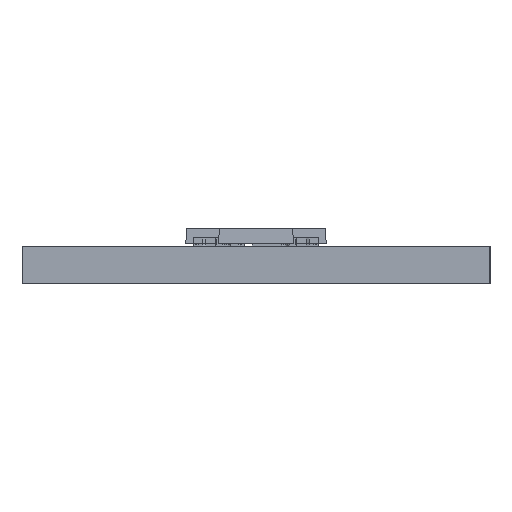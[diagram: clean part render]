
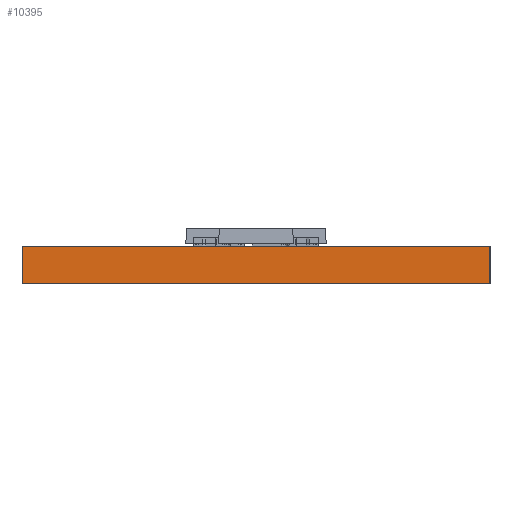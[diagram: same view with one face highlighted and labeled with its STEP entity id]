
A CAD part, left-side view. The second image highlights one B-rep face of the part: STEP entity #10395.
In plain terms, the highlighted planar face has unit normal (-1, 0, 0).
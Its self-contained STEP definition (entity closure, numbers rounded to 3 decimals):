
#1860=CARTESIAN_POINT('Vertex',(-17.,-10.,-1.6)) ;
#1863=CARTESIAN_POINT('Line Origine',(-17.,0.,-1.6)) ;
#1867=CARTESIAN_POINT('Vertex',(-17.,10.,-1.6)) ;
#9948=CARTESIAN_POINT('Vertex',(-17.,-10.,-0.004)) ;
#9951=CARTESIAN_POINT('Line Origine',(-17.,-10.,-0.802)) ;
#10321=CARTESIAN_POINT('Line Origine',(-17.,10.,-0.802)) ;
#10325=CARTESIAN_POINT('Vertex',(-17.,10.,-0.004)) ;
#10379=CARTESIAN_POINT('Axis2P3D Location',(-17.,-10.,0.)) ;
#10384=CARTESIAN_POINT('Line Origine',(-17.,0.,-0.004)) ;
#1865=VECTOR('Line Direction',#1864,1.) ;
#9953=VECTOR('Line Direction',#9952,1.) ;
#10323=VECTOR('Line Direction',#10322,1.) ;
#10386=VECTOR('Line Direction',#10385,1.) ;
#1864=DIRECTION('Vector Direction',(0.,1.,0.)) ;
#9952=DIRECTION('Vector Direction',(0.,0.,-1.)) ;
#10322=DIRECTION('Vector Direction',(0.,0.,-1.)) ;
#10380=DIRECTION('Axis2P3D Direction',(-1.,0.,0.)) ;
#10381=DIRECTION('Axis2P3D XDirection',(0.,1.,0.)) ;
#10385=DIRECTION('Vector Direction',(0.,-1.,0.)) ;
#10382=AXIS2_PLACEMENT_3D('Plane Axis2P3D',#10379,#10380,#10381) ;
#1866=LINE('Line',#1863,#1865) ;
#9954=LINE('Line',#9951,#9953) ;
#10324=LINE('Line',#10321,#10323) ;
#10387=LINE('Line',#10384,#10386) ;
#10383=PLANE('',#10382) ;
#1869=EDGE_CURVE('',#1861,#1868,#1866,.T.) ;
#9955=EDGE_CURVE('',#9949,#1861,#9954,.T.) ;
#10327=EDGE_CURVE('',#10326,#1868,#10324,.T.) ;
#10388=EDGE_CURVE('',#10326,#9949,#10387,.T.) ;
#10389=EDGE_LOOP('',(#10390,#10391,#10392,#10393)) ;
#10390=ORIENTED_EDGE('',*,*,#10327,.T.) ;
#10391=ORIENTED_EDGE('',*,*,#1869,.F.) ;
#10392=ORIENTED_EDGE('',*,*,#9955,.F.) ;
#10393=ORIENTED_EDGE('',*,*,#10388,.F.) ;
#1861=VERTEX_POINT('',#1860) ;
#1868=VERTEX_POINT('',#1867) ;
#9949=VERTEX_POINT('',#9948) ;
#10326=VERTEX_POINT('',#10325) ;
#10395=ADVANCED_FACE('PCB',(#10394),#10383,.T.) ;
#10394=FACE_OUTER_BOUND('',#10389,.T.) ;
